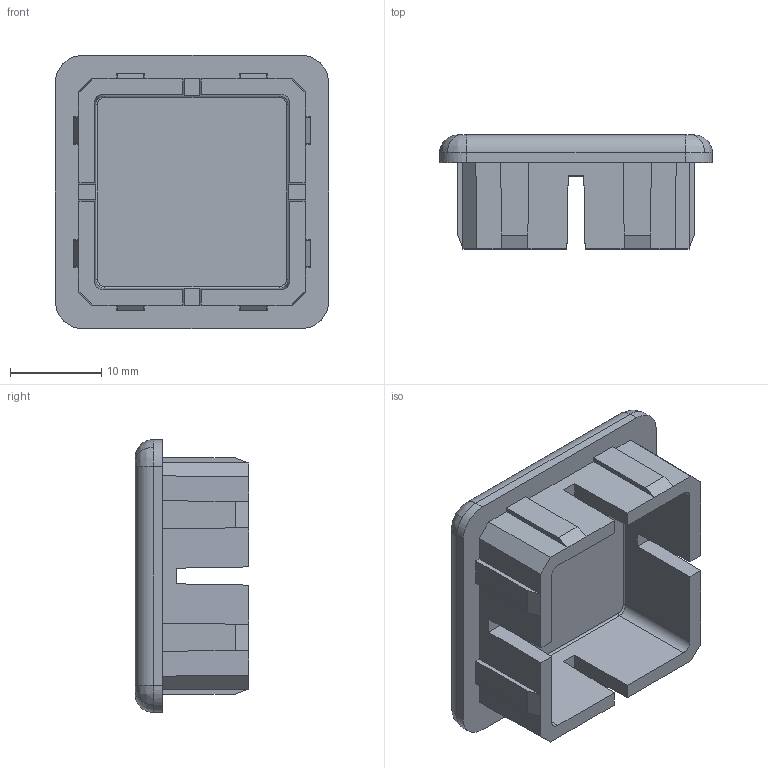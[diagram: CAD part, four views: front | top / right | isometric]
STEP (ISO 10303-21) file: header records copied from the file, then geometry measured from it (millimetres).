
FILE_DESCRIPTION (( 'STEP AP203' ), '1' );
FILE_NAME ('013.100.002.STEP', '2020-10-27T13:29:19', ( '' ), ( '' ), 'SwSTEP 2.0', 'SolidWorks 2018', '' );
FILE_SCHEMA (( 'CONFIG_CONTROL_DESIGN' ));
Length unit declared in the file: millimetre
Products named in the file (1): 013.100.002
Bounding box: 30 x 12.5 x 30 mm (x, y, z)
Volume: 3715.9 mm3; surface area: 3813.4 mm2
Topology: 1 solids, 1 shells, 128 faces, 340 edges, 216 vertices
Faces by surface type: plane 80, cylinder 28, bspline 20
Entity records: 4221 total; most frequent: CARTESIAN_POINT 1169, ORIENTED_EDGE 680, DIRECTION 546, EDGE_CURVE 340, LINE 256, VECTOR 256, VERTEX_POINT 216, AXIS2_PLACEMENT_3D 145
